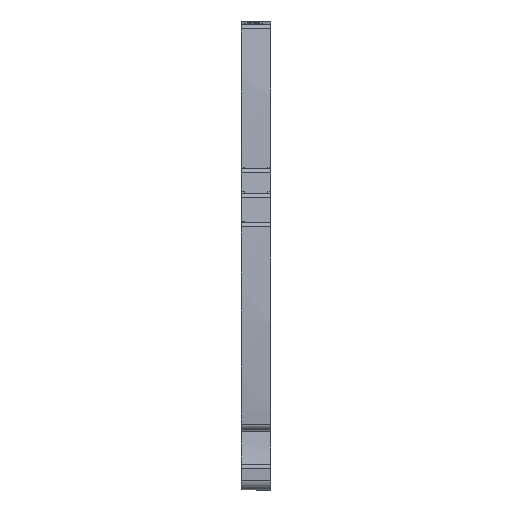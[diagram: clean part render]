
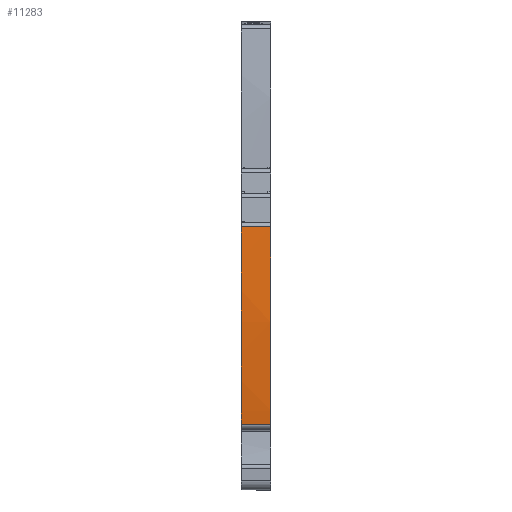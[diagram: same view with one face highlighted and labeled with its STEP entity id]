
A CAD part, front view. The second image highlights one B-rep face of the part: STEP entity #11283.
In plain terms, the highlighted cylindrical face has radius 202 mm (diameter 404 mm), a partial arc.
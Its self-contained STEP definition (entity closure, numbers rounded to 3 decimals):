
#11245=AXIS2_PLACEMENT_3D('Cylinder Axis2P3D',#11242,#11243,#11244) ;
#11249=AXIS2_PLACEMENT_3D('Circle Axis2P3D',#11247,#11248,$) ;
#11256=AXIS2_PLACEMENT_3D('Circle Axis2P3D',#11254,#11255,$) ;
#11263=AXIS2_PLACEMENT_3D('Circle Axis2P3D',#11261,#11262,$) ;
#1696=CARTESIAN_POINT('Vertex',(6.,0.609,53.828)) ;
#1700=CARTESIAN_POINT('Control Point',(6.,0.609,53.828)) ;
#1701=CARTESIAN_POINT('Control Point',(6.,0.104,47.333)) ;
#1702=CARTESIAN_POINT('Control Point',(6.,-0.087,40.813)) ;
#1703=CARTESIAN_POINT('Control Point',(6.,0.037,34.3)) ;
#1704=CARTESIAN_POINT('Vertex',(6.,0.037,34.3)) ;
#1708=CARTESIAN_POINT('Control Point',(6.,0.037,34.3)) ;
#1709=CARTESIAN_POINT('Control Point',(6.,0.152,28.27)) ;
#1710=CARTESIAN_POINT('Control Point',(6.,0.537,22.245)) ;
#1711=CARTESIAN_POINT('Control Point',(6.,1.191,16.25)) ;
#1712=CARTESIAN_POINT('Vertex',(6.,1.191,16.25)) ;
#1716=CARTESIAN_POINT('Control Point',(6.,1.191,16.25)) ;
#1717=CARTESIAN_POINT('Control Point',(6.,1.297,15.275)) ;
#1718=CARTESIAN_POINT('Control Point',(6.,1.41,14.301)) ;
#1719=CARTESIAN_POINT('Control Point',(6.,1.531,13.327)) ;
#1720=CARTESIAN_POINT('Vertex',(6.,1.531,13.327)) ;
#11226=CARTESIAN_POINT('Vertex',(0.,0.609,53.828)) ;
#11229=CARTESIAN_POINT('Line Origine',(2.39,0.609,53.828)) ;
#11242=CARTESIAN_POINT('Axis2P3D Location',(2.55,202.,38.15)) ;
#11247=CARTESIAN_POINT('Axis2P3D Location',(0.,202.,38.15)) ;
#11251=CARTESIAN_POINT('Vertex',(0.,0.037,34.3)) ;
#11254=CARTESIAN_POINT('Axis2P3D Location',(0.,202.,38.15)) ;
#11258=CARTESIAN_POINT('Vertex',(0.,1.191,16.25)) ;
#11261=CARTESIAN_POINT('Axis2P3D Location',(0.,202.,38.15)) ;
#11265=CARTESIAN_POINT('Vertex',(0.,1.531,13.327)) ;
#11268=CARTESIAN_POINT('Line Origine',(12.39,1.531,13.327)) ;
#11230=DIRECTION('Vector Direction',(1.,0.,0.)) ;
#11243=DIRECTION('Axis2P3D Direction',(1.,0.,0.)) ;
#11244=DIRECTION('Axis2P3D XDirection',(0.,-0.997,0.078)) ;
#11248=DIRECTION('Axis2P3D Direction',(1.,0.,0.)) ;
#11255=DIRECTION('Axis2P3D Direction',(1.,0.,0.)) ;
#11262=DIRECTION('Axis2P3D Direction',(1.,0.,0.)) ;
#11269=DIRECTION('Vector Direction',(1.,0.,0.)) ;
#11231=VECTOR('Line Direction',#11230,1.) ;
#11270=VECTOR('Line Direction',#11269,1.) ;
#11274=ORIENTED_EDGE('',*,*,#11233,.T.) ;
#11275=ORIENTED_EDGE('',*,*,#11253,.T.) ;
#11276=ORIENTED_EDGE('',*,*,#11260,.T.) ;
#11277=ORIENTED_EDGE('',*,*,#11267,.T.) ;
#11278=ORIENTED_EDGE('',*,*,#11272,.F.) ;
#11279=ORIENTED_EDGE('',*,*,#1722,.F.) ;
#11280=ORIENTED_EDGE('',*,*,#1714,.F.) ;
#11281=ORIENTED_EDGE('',*,*,#1706,.F.) ;
#11283=ADVANCED_FACE('KLEMME',(#11282),#11246,.T.) ;
#1699=B_SPLINE_CURVE_WITH_KNOTS('',3,(#1700,#1701,#1702,#1703),.UNSPECIFIED.,.F.,.U.,(4,4),(618.908,638.452),.UNSPECIFIED.) ;
#1707=B_SPLINE_CURVE_WITH_KNOTS('',3,(#1708,#1709,#1710,#1711),.UNSPECIFIED.,.F.,.U.,(4,4),(638.452,656.545),.UNSPECIFIED.) ;
#1715=B_SPLINE_CURVE_WITH_KNOTS('',3,(#1716,#1717,#1718,#1719),.UNSPECIFIED.,.F.,.U.,(4,4),(656.545,659.488),.UNSPECIFIED.) ;
#11250=CIRCLE('generated circle',#11249,202.) ;
#11257=CIRCLE('generated circle',#11256,202.) ;
#11264=CIRCLE('generated circle',#11263,202.) ;
#11246=CYLINDRICAL_SURFACE('generated cylinder',#11245,202.) ;
#1706=EDGE_CURVE('',#1697,#1705,#1699,.T.) ;
#1714=EDGE_CURVE('',#1705,#1713,#1707,.T.) ;
#1722=EDGE_CURVE('',#1713,#1721,#1715,.T.) ;
#11233=EDGE_CURVE('',#1697,#11227,#11232,.F.) ;
#11253=EDGE_CURVE('',#11227,#11252,#11250,.T.) ;
#11260=EDGE_CURVE('',#11252,#11259,#11257,.T.) ;
#11267=EDGE_CURVE('',#11259,#11266,#11264,.T.) ;
#11272=EDGE_CURVE('',#1721,#11266,#11271,.F.) ;
#11273=EDGE_LOOP('',(#11274,#11275,#11276,#11277,#11278,#11279,#11280,#11281)) ;
#11282=FACE_OUTER_BOUND('',#11273,.T.) ;
#11232=LINE('Line',#11229,#11231) ;
#11271=LINE('Line',#11268,#11270) ;
#1697=VERTEX_POINT('',#1696) ;
#1705=VERTEX_POINT('',#1704) ;
#1713=VERTEX_POINT('',#1712) ;
#1721=VERTEX_POINT('',#1720) ;
#11227=VERTEX_POINT('',#11226) ;
#11252=VERTEX_POINT('',#11251) ;
#11259=VERTEX_POINT('',#11258) ;
#11266=VERTEX_POINT('',#11265) ;
